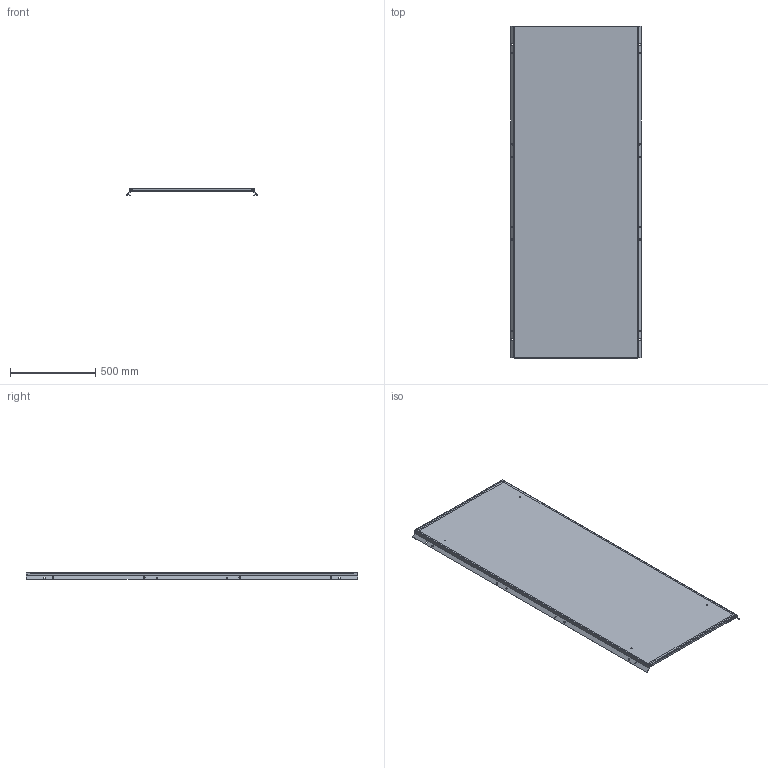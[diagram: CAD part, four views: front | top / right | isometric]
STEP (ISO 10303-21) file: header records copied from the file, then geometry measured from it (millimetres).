
FILE_DESCRIPTION (( 'STEP AP203' ), '1' );
FILE_NAME ('MA1.200.080620.10.00 AleSta-PR208 Ïàíåëü çàäíÿÿ, äëÿ øêàôîâ ALESTA, 2000 x 800.STEP', '2025-02-19T15:17:10', ( '' ), ( '' ), 'SwSTEP 2.0', 'SolidWorks 2021', '' );
FILE_SCHEMA (( 'CONFIG_CONTROL_DESIGN' ));
Length unit declared in the file: millimetre
Products named in the file (6): MA1.200.060620.11.00 Ïàíåëü çàäíÿÿ, äëÿ øêàôîâ AleSta, 2000x600_2000å800; MA1.200.060620.11.01 Ïîëîòíî çàäíåé ïàíåëè 2000õ600_2000å800; Øïèëüêà Ì6õ12_˜¯¨«ìª  Œ6å12; Óïëîòíèòåëü ïàíåëè íèæíåé_ ‚=2000; MA1.200.080620.10.00 AleSta-PR208  Ïàíåëü çàäíÿÿ, äëÿ øêàôîâ ALESTA, 2000 x 800; Âèíò ñàìîíàðåçàþùèé ñ ïîòàéíîé ãîëîâêîé Ì5x16 DIN 7500 M TORX, êëàññ ïðî÷íîñòè 8.8, îöèíêîâàííàÿ ñòàëü_Œ5å16
Assembly tree (15 placements, depth 3):
  MA1.200.080620.10.00 AleSta-PR208  Ïàíåëü çàäíÿÿ, äëÿ øêàôîâ ALESTA, 2000 x 800
    MA1.200.060620.11.00 Ïàíåëü çàäíÿÿ, äëÿ øêàôîâ AleSta, 2000x600_2000å800
      MA1.200.060620.11.01 Ïîëîòíî çàäíåé ïàíåëè 2000õ600_2000å800
      Óïëîòíèòåëü ïàíåëè íèæíåé_ ‚=2000
      Øïèëüêà Ì6õ12_˜¯¨«ìª  Œ6å12  x4
    Âèíò ñàìîíàðåçàþùèé ñ ïîòàéíîé ãîëîâêîé Ì5x16 DIN 7500 M TORX, êëàññ ïðî÷íîñòè 8.8, îöèíêîâàííàÿ ñòàëü_Œ5å16  x8
Bounding box: 765.31 x 1945 x 41.7 mm (x, y, z)
Volume: 1950863.7 mm3; surface area: 3404291.9 mm2
Topology: 14 solids, 14 shells, 544 faces, 1352 edges, 864 vertices
Faces by surface type: cylinder 304, plane 184, cone 40, bspline 8, torus 8
Entity records: 7885 total; most frequent: CARTESIAN_POINT 1623, DIRECTION 1165, ORIENTED_EDGE 1074, EDGE_CURVE 537, AXIS2_PLACEMENT_3D 424, VERTEX_POINT 332, LINE 317, VECTOR 317
